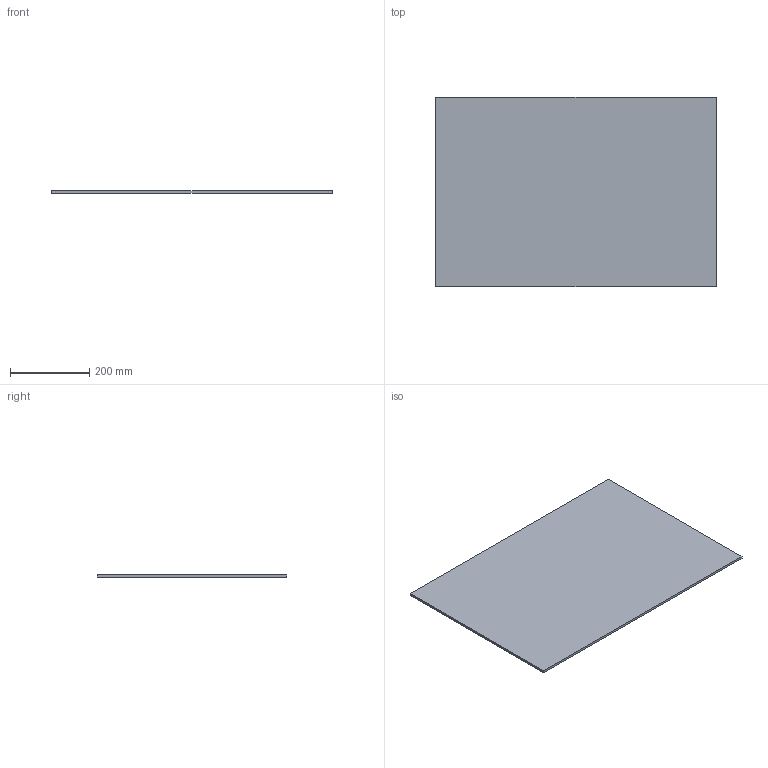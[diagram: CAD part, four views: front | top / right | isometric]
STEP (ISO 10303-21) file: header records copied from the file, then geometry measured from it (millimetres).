
FILE_DESCRIPTION (( 'STEP AP214' ), '1' );
FILE_NAME ('Lochblech_NL500_KAB800_16.step', '2010-10-11T13:38:34', ( 'grass' ), ( '' ), 'SwSTEP 2.0', 'SolidWorks 2010', '' );
FILE_SCHEMA (( 'AUTOMOTIVE_DESIGN' ));
Length unit declared in the file: millimetre
Products named in the file (1): Lochblech_NL500_KAB800_16
Bounding box: 708 x 479 x 6 mm (x, y, z)
Volume: 2034792 mm3; surface area: 692508 mm2
Topology: 1 solids, 1 shells, 6 faces, 12 edges, 8 vertices
Faces by surface type: plane 6
Entity records: 190 total; most frequent: CARTESIAN_POINT 27, DIRECTION 26, ORIENTED_EDGE 24, EDGE_CURVE 12, LINE 12, VECTOR 12, VERTEX_POINT 8, AXIS2_PLACEMENT_3D 7
